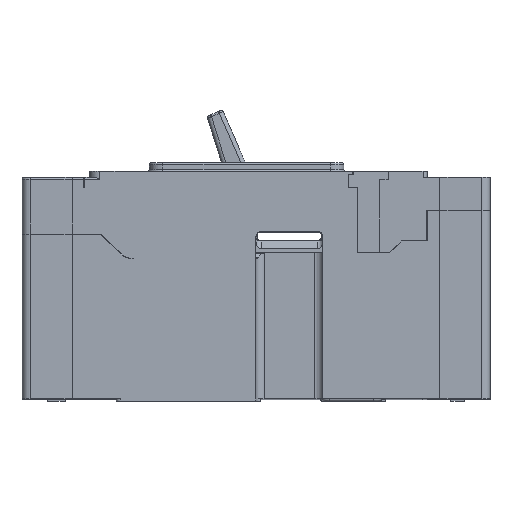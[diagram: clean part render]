
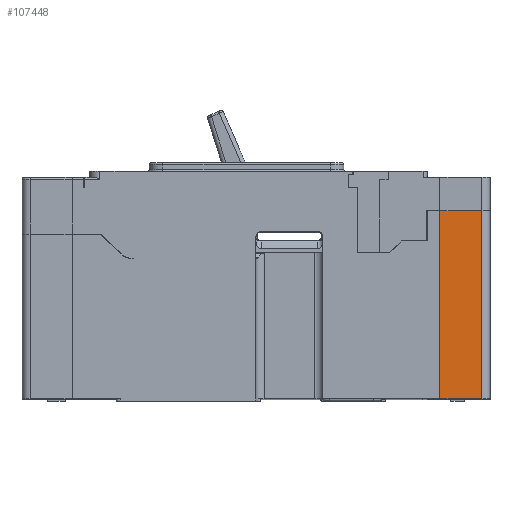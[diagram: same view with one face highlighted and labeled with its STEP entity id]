
A CAD part, top view. The second image highlights one B-rep face of the part: STEP entity #107448.
In plain terms, the highlighted planar face has unit normal (0, 0, 1).
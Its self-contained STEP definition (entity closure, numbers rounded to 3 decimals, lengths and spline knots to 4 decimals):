
#13804=DIRECTION('',(-1.,0.,0.));
#13805=VECTOR('',#13804,0.625);
#13806=CARTESIAN_POINT('',(6.375,-2.813,3.407));
#13807=LINE('',#13806,#13805);
#25435=DIRECTION('',(-1.,0.,0.));
#25436=VECTOR('',#25435,0.625);
#25437=CARTESIAN_POINT('',(6.375,0.,3.407));
#25438=LINE('',#25437,#25436);
#25447=DIRECTION('',(0.,-1.,0.));
#25448=VECTOR('',#25447,2.813);
#25449=CARTESIAN_POINT('',(5.75,0.,3.407));
#25450=LINE('',#25449,#25448);
#29698=DIRECTION('',(0.,1.,0.));
#29699=VECTOR('',#29698,2.813);
#29700=CARTESIAN_POINT('',(6.375,-2.813,3.407));
#29701=LINE('',#29700,#29699);
#57445=CARTESIAN_POINT('',(5.75,-2.813,3.407));
#57447=VERTEX_POINT('',#57445);
#57467=CARTESIAN_POINT('',(6.375,-2.813,3.407));
#57468=CARTESIAN_POINT('',(6.375,0.,3.407));
#57469=VERTEX_POINT('',#57467);
#57470=VERTEX_POINT('',#57468);
#68446=CARTESIAN_POINT('',(5.75,0.,3.407));
#68447=VERTEX_POINT('',#68446);
#107436=CARTESIAN_POINT('',(6.5,0.,3.407));
#107437=DIRECTION('',(0.,0.,1.));
#107438=DIRECTION('',(-1.,0.,0.));
#107439=AXIS2_PLACEMENT_3D('',#107436,#107437,#107438);
#107440=PLANE('',#107439);
#107441=ORIENTED_EDGE('',*,*,#102082,.F.);
#107442=ORIENTED_EDGE('',*,*,#102051,.F.);
#107444=ORIENTED_EDGE('',*,*,#107443,.F.);
#107445=ORIENTED_EDGE('',*,*,#88164,.T.);
#107446=EDGE_LOOP('',(#107441,#107442,#107444,#107445));
#107447=FACE_OUTER_BOUND('',#107446,.F.);
#107448=ADVANCED_FACE('',(#107447),#107440,.T.);
#88164=EDGE_CURVE('',#57469,#57447,#13807,.T.);
#102051=EDGE_CURVE('',#57470,#68447,#25438,.T.);
#102082=EDGE_CURVE('',#68447,#57447,#25450,.T.);
#107443=EDGE_CURVE('',#57469,#57470,#29701,.T.);
